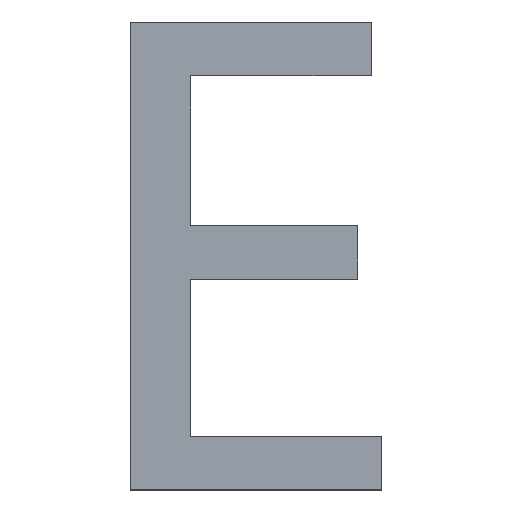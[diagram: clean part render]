
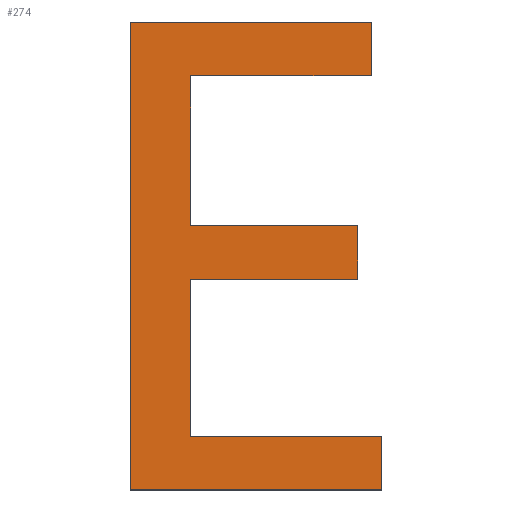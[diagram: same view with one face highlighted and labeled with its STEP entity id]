
A CAD part, top view. The second image highlights one B-rep face of the part: STEP entity #274.
In plain terms, the highlighted planar face has unit normal (0, 0, 1).
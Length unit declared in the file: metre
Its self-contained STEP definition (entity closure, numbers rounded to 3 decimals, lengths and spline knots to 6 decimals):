
#24=ORIENTED_EDGE('',*,*,#96,.T.);
#25=ORIENTED_EDGE('',*,*,#97,.T.);
#26=ORIENTED_EDGE('',*,*,#98,.T.);
#27=ORIENTED_EDGE('',*,*,#99,.T.);
#28=ORIENTED_EDGE('',*,*,#100,.T.);
#29=ORIENTED_EDGE('',*,*,#101,.T.);
#30=ORIENTED_EDGE('',*,*,#102,.T.);
#31=ORIENTED_EDGE('',*,*,#103,.T.);
#32=ORIENTED_EDGE('',*,*,#104,.T.);
#33=ORIENTED_EDGE('',*,*,#105,.T.);
#34=ORIENTED_EDGE('',*,*,#106,.T.);
#35=ORIENTED_EDGE('',*,*,#107,.T.);
#96=EDGE_CURVE('',#132,#133,#156,.T.);
#97=EDGE_CURVE('',#133,#134,#157,.T.);
#98=EDGE_CURVE('',#134,#135,#158,.T.);
#99=EDGE_CURVE('',#135,#136,#159,.T.);
#100=EDGE_CURVE('',#136,#137,#160,.T.);
#101=EDGE_CURVE('',#137,#138,#161,.T.);
#102=EDGE_CURVE('',#138,#139,#162,.T.);
#103=EDGE_CURVE('',#139,#140,#163,.T.);
#104=EDGE_CURVE('',#140,#141,#164,.T.);
#105=EDGE_CURVE('',#141,#142,#165,.T.);
#106=EDGE_CURVE('',#142,#143,#166,.T.);
#107=EDGE_CURVE('',#143,#132,#167,.T.);
#132=VERTEX_POINT('',#492);
#133=VERTEX_POINT('',#493);
#134=VERTEX_POINT('',#495);
#135=VERTEX_POINT('',#497);
#136=VERTEX_POINT('',#499);
#137=VERTEX_POINT('',#501);
#138=VERTEX_POINT('',#503);
#139=VERTEX_POINT('',#505);
#140=VERTEX_POINT('',#507);
#141=VERTEX_POINT('',#509);
#142=VERTEX_POINT('',#511);
#143=VERTEX_POINT('',#513);
#156=LINE('',#491,#192);
#157=LINE('',#494,#193);
#158=LINE('',#496,#194);
#159=LINE('',#498,#195);
#160=LINE('',#500,#196);
#161=LINE('',#502,#197);
#162=LINE('',#504,#198);
#163=LINE('',#506,#199);
#164=LINE('',#508,#200);
#165=LINE('',#510,#201);
#166=LINE('',#512,#202);
#167=LINE('',#514,#203);
#192=VECTOR('',#416,1.);
#193=VECTOR('',#417,1.);
#194=VECTOR('',#418,1.);
#195=VECTOR('',#419,1.);
#196=VECTOR('',#420,1.);
#197=VECTOR('',#421,1.);
#198=VECTOR('',#422,1.);
#199=VECTOR('',#423,1.);
#200=VECTOR('',#424,1.);
#201=VECTOR('',#425,1.);
#202=VECTOR('',#426,1.);
#203=VECTOR('',#427,1.);
#217=EDGE_LOOP('',(#24,#25,#26,#27,#28,#29,#30,#31,#32,#33,#34,#35));
#231=FACE_BOUND('',#217,.T.);
#245=PLANE('',#385);
#274=ADVANCED_FACE('',(#231),#245,.F.);
#385=AXIS2_PLACEMENT_3D('',#490,#414,#415);
#414=DIRECTION('',(0.,0.,-1.));
#415=DIRECTION('',(-1.,0.,0.));
#416=DIRECTION('',(0.,1.,0.));
#417=DIRECTION('',(-1.,0.,0.));
#418=DIRECTION('',(0.,1.,0.));
#419=DIRECTION('',(1.,0.,0.));
#420=DIRECTION('',(0.,1.,0.));
#421=DIRECTION('',(-1.,0.,0.));
#422=DIRECTION('',(0.,1.,0.));
#423=DIRECTION('',(1.,0.,0.));
#424=DIRECTION('',(0.,1.,0.));
#425=DIRECTION('',(-1.,0.,0.));
#426=DIRECTION('',(0.,-1.,0.));
#427=DIRECTION('',(1.,0.,0.));
#490=CARTESIAN_POINT('',(-0.105595,-0.007956,0.024401));
#491=CARTESIAN_POINT('',(-0.062117,-0.00823,0.024401));
#492=CARTESIAN_POINT('',(-0.062117,-0.00832,0.024401));
#493=CARTESIAN_POINT('',(-0.062117,-0.00823,0.024401));
#494=CARTESIAN_POINT('',(-0.062441,-0.00823,0.024401));
#495=CARTESIAN_POINT('',(-0.062441,-0.00823,0.024401));
#496=CARTESIAN_POINT('',(-0.062441,-0.007963,0.024401));
#497=CARTESIAN_POINT('',(-0.062441,-0.007963,0.024401));
#498=CARTESIAN_POINT('',(-0.062157,-0.007963,0.024401));
#499=CARTESIAN_POINT('',(-0.062157,-0.007963,0.024401));
#500=CARTESIAN_POINT('',(-0.062157,-0.007872,0.024401));
#501=CARTESIAN_POINT('',(-0.062157,-0.007872,0.024401));
#502=CARTESIAN_POINT('',(-0.062441,-0.007872,0.024401));
#503=CARTESIAN_POINT('',(-0.062441,-0.007872,0.024401));
#504=CARTESIAN_POINT('',(-0.062441,-0.007618,0.024401));
#505=CARTESIAN_POINT('',(-0.062441,-0.007618,0.024401));
#506=CARTESIAN_POINT('',(-0.062135,-0.007618,0.024401));
#507=CARTESIAN_POINT('',(-0.062135,-0.007618,0.024401));
#508=CARTESIAN_POINT('',(-0.062135,-0.007527,0.024401));
#509=CARTESIAN_POINT('',(-0.062135,-0.007527,0.024401));
#510=CARTESIAN_POINT('',(-0.062543,-0.007527,0.024401));
#511=CARTESIAN_POINT('',(-0.062543,-0.007527,0.024401));
#512=CARTESIAN_POINT('',(-0.062543,-0.00832,0.024401));
#513=CARTESIAN_POINT('',(-0.062543,-0.00832,0.024401));
#514=CARTESIAN_POINT('',(-0.062117,-0.00832,0.024401));
